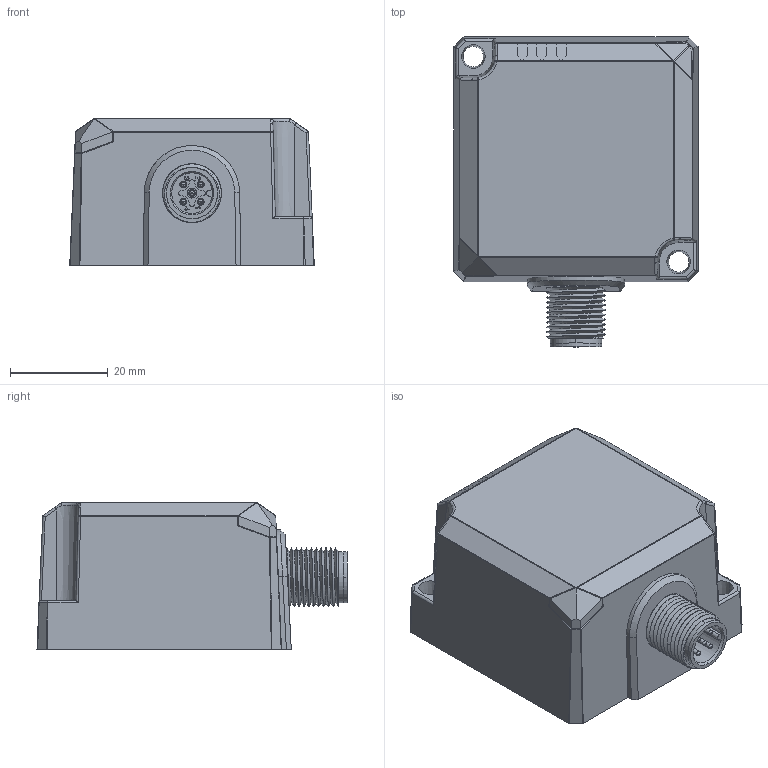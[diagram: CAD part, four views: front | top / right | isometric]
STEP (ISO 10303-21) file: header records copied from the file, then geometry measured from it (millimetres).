
FILE_DESCRIPTION((''),'2;1');
FILE_NAME('Q50-_X2_6A2151778BBE8BA1_X0__AS_ASM','2020-06-10T',('Administrator'),(''),'PRO/ENGINEER BY PARAMETRIC TECHNOLOGY CORPORATION, 2014320','PRO/ENGINEER BY PARAMETRIC TECHNOLOGY CORPORATION, 2014320','');
FILE_SCHEMA(('CONFIG_CONTROL_DESIGN','SHAPE_APPEARANCE_LAYERS_GROUPS'));
Length unit declared in the file: millimetre
Products named in the file (14): _X2_5B9E4F53_X0_1-57_12; _X2_5B9E4F53_X0_1-58_6; Q50-_X2_89D2706F_X0__ASM_1_ASM; MANIFOLD_SOLID_BREP_3718; MANIFOLD_SOLID_BREP_4357; MANIFOLD_SOLID_BREP_4996; _X2_5B9E4F53_X0_1-63_7_ASM; Q50-_X2_5BFC514967F1_X0__ASM_2_ASM; H04A01_11_1; TL_7_1; QW-SHELL-PIN_1_1; 5P_ASM_1_ASM; Q50-_X2_591658F3_X0__43_7_4; Q50-_X2_6A2151778BBE8BA1_X0__AS_ASM
Assembly tree (17 placements, depth 4):
  Q50-_X2_6A2151778BBE8BA1_X0__AS_ASM
    Q50-_X2_89D2706F_X0__ASM_1_ASM
      _X2_5B9E4F53_X0_1-57_12
      _X2_5B9E4F53_X0_1-58_6
    Q50-_X2_5BFC514967F1_X0__ASM_2_ASM
      _X2_5B9E4F53_X0_1-63_7_ASM
        MANIFOLD_SOLID_BREP_3718
        MANIFOLD_SOLID_BREP_4357
        MANIFOLD_SOLID_BREP_4996
    5P_ASM_1_ASM
      H04A01_11_1
      TL_7_1  x5
      QW-SHELL-PIN_1_1
    Q50-_X2_591658F3_X0__43_7_4
Bounding box: 50 x 63.4 x 30 mm (x, y, z)
Volume: 70037.5 mm3; surface area: 14742.4 mm2
Topology: 13 solids, 13 shells, 514 faces, 1304 edges, 834 vertices
Faces by surface type: plane 249, cylinder 177, bspline 63, cone 20, sphere 3, torus 2
Entity records: 21958 total; most frequent: CARTESIAN_POINT 9146, ORIENTED_EDGE 2354, DIRECTION 1997, EDGE_CURVE 1177, VERTEX_POINT 760, VECTOR 729, LINE 729, AXIS2_PLACEMENT_3D 634
